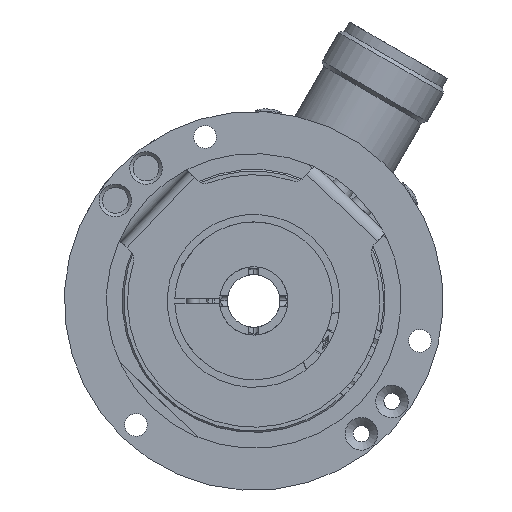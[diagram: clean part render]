
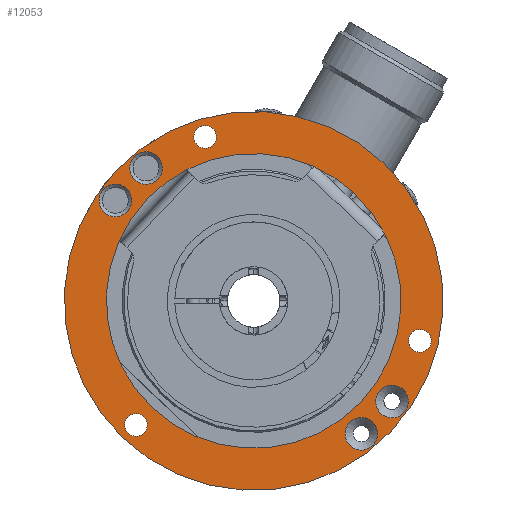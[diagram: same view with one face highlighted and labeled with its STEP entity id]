
A CAD part, left-side view. The second image highlights one B-rep face of the part: STEP entity #12053.
In plain terms, the highlighted planar face has unit normal (-1, 0, 0).
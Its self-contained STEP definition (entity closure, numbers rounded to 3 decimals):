
#1892 = FACE_BOUND ( 'NONE', #14292, .T. ) ;
#1893 = FACE_BOUND ( 'NONE', #14314, .T. ) ;
#1894 = FACE_BOUND ( 'NONE', #14316, .T. ) ;
#1895 = FACE_BOUND ( 'NONE', #14315, .T. ) ;
#1896 = FACE_BOUND ( 'NONE', #14304, .T. ) ;
#1897 = FACE_BOUND ( 'NONE', #14317, .T. ) ;
#1898 = FACE_BOUND ( 'NONE', #14318, .T. ) ;
#1899 = FACE_BOUND ( 'NONE', #14319, .T. ) ;
#1900 = FACE_OUTER_BOUND ( 'NONE', #14320, .T. ) ;
#4047 = DIRECTION ( 'NONE',  ( 1., 0., 0. ) ) ;
#4053 = CARTESIAN_POINT ( 'NONE',  ( -11.2, 0., 0. ) ) ;
#4054 = PLANE ( 'NONE',  #21136 ) ;
#4055 = DIRECTION ( 'NONE',  ( 0., -0.725, -0.688 ) ) ;
#4995 = CIRCLE ( 'NONE', #8815, 28. ) ;
#4997 = CIRCLE ( 'NONE', #8813, 2.15 ) ;
#5017 = CIRCLE ( 'NONE', #8818, 2.15 ) ;
#5019 = CIRCLE ( 'NONE', #8819, 3.1 ) ;
#5021 = CIRCLE ( 'NONE', #8821, 3.1 ) ;
#5024 = CIRCLE ( 'NONE', #8820, 2.15 ) ;
#5028 = CIRCLE ( 'NONE', #8822, 3.1 ) ;
#5029 = CIRCLE ( 'NONE', #8823, 3.1 ) ;
#5055 = CIRCLE ( 'NONE', #8831, 36. ) ;
#8813 = AXIS2_PLACEMENT_3D ( 'NONE', #9500, #9501, #9502 ) ;
#8815 = AXIS2_PLACEMENT_3D ( 'NONE', #9508, #9509, #9510 ) ;
#8818 = AXIS2_PLACEMENT_3D ( 'NONE', #9534, #9535, #9536 ) ;
#8819 = AXIS2_PLACEMENT_3D ( 'NONE', #9538, #9539, #9540 ) ;
#8820 = AXIS2_PLACEMENT_3D ( 'NONE', #9541, #9542, #9543 ) ;
#8821 = AXIS2_PLACEMENT_3D ( 'NONE', #9546, #9547, #9548 ) ;
#8822 = AXIS2_PLACEMENT_3D ( 'NONE', #9550, #9551, #9552 ) ;
#8823 = AXIS2_PLACEMENT_3D ( 'NONE', #9553, #9554, #9555 ) ;
#8831 = AXIS2_PLACEMENT_3D ( 'NONE', #9601, #9602, #9603 ) ;
#9500 = CARTESIAN_POINT ( 'NONE',  ( -11.2, 22.372, -23.575 ) ) ;
#9501 = DIRECTION ( 'NONE',  ( -1., 0., 0. ) ) ;
#9502 = DIRECTION ( 'NONE',  ( 0., 0.725, 0.688 ) ) ;
#9508 = CARTESIAN_POINT ( 'NONE',  ( -11.2, 0., 0. ) ) ;
#9509 = DIRECTION ( 'NONE',  ( 1., 0., 0. ) ) ;
#9510 = DIRECTION ( 'NONE',  ( 0., -0.725, -0.688 ) ) ;
#9534 = CARTESIAN_POINT ( 'NONE',  ( -11.2, -31.602, -7.587 ) ) ;
#9535 = DIRECTION ( 'NONE',  ( -1., 0., 0. ) ) ;
#9536 = DIRECTION ( 'NONE',  ( 0., 0.233, -0.972 ) ) ;
#9538 = CARTESIAN_POINT ( 'NONE',  ( -11.2, 20.453, 25.257 ) ) ;
#9539 = DIRECTION ( 'NONE',  ( 1., 0., 0. ) ) ;
#9540 = DIRECTION ( 'NONE',  ( 0., -0.725, -0.688 ) ) ;
#9541 = CARTESIAN_POINT ( 'NONE',  ( -11.2, 9.23, 31.162 ) ) ;
#9542 = DIRECTION ( 'NONE',  ( -1., 0., 0. ) ) ;
#9543 = DIRECTION ( 'NONE',  ( 0., -0.959, 0.284 ) ) ;
#9546 = CARTESIAN_POINT ( 'NONE',  ( -11.2, 26.293, 19.103 ) ) ;
#9547 = DIRECTION ( 'NONE',  ( 1., 0., 0. ) ) ;
#9548 = DIRECTION ( 'NONE',  ( 0., -0.725, -0.688 ) ) ;
#9550 = CARTESIAN_POINT ( 'NONE',  ( -11.2, -20.453, -25.257 ) ) ;
#9551 = DIRECTION ( 'NONE',  ( 1., 0., 0. ) ) ;
#9552 = DIRECTION ( 'NONE',  ( 0., -0.725, -0.688 ) ) ;
#9553 = CARTESIAN_POINT ( 'NONE',  ( -11.2, -26.293, -19.103 ) ) ;
#9554 = DIRECTION ( 'NONE',  ( 1., 0., 0. ) ) ;
#9555 = DIRECTION ( 'NONE',  ( 0., -0.725, -0.688 ) ) ;
#9601 = CARTESIAN_POINT ( 'NONE',  ( -11.2, 0., 0. ) ) ;
#9602 = DIRECTION ( 'NONE',  ( 1., 0., 0. ) ) ;
#9603 = DIRECTION ( 'NONE',  ( 0., -0.725, -0.688 ) ) ;
#10280 = VERTEX_POINT ( 'NONE', #10537 ) ;
#10281 = VERTEX_POINT ( 'NONE', #10538 ) ;
#10282 = VERTEX_POINT ( 'NONE', #10539 ) ;
#10283 = VERTEX_POINT ( 'NONE', #10540 ) ;
#10284 = VERTEX_POINT ( 'NONE', #10541 ) ;
#10285 = VERTEX_POINT ( 'NONE', #10542 ) ;
#10286 = VERTEX_POINT ( 'NONE', #10543 ) ;
#10287 = VERTEX_POINT ( 'NONE', #10544 ) ;
#10292 = VERTEX_POINT ( 'NONE', #10549 ) ;
#10537 = CARTESIAN_POINT ( 'NONE',  ( -11.2, 23.931, -22.095 ) ) ;
#10538 = CARTESIAN_POINT ( 'NONE',  ( -11.2, -20.31, -19.274 ) ) ;
#10539 = CARTESIAN_POINT ( 'NONE',  ( -11.2, -31.1, -9.678 ) ) ;
#10540 = CARTESIAN_POINT ( 'NONE',  ( -11.2, 18.204, 23.123 ) ) ;
#10541 = CARTESIAN_POINT ( 'NONE',  ( -11.2, 7.169, 31.772 ) ) ;
#10542 = CARTESIAN_POINT ( 'NONE',  ( -11.2, 24.044, 16.969 ) ) ;
#10543 = CARTESIAN_POINT ( 'NONE',  ( -11.2, -22.702, -27.391 ) ) ;
#10544 = CARTESIAN_POINT ( 'NONE',  ( -11.2, -28.542, -21.237 ) ) ;
#10549 = CARTESIAN_POINT ( 'NONE',  ( -11.2, -26.113, -24.781 ) ) ;
#12053 = ADVANCED_FACE ( 'NONE', ( #1892, #1896, #1893, #1895, #1894, #1897, #1898, #1899, #1900 ), #4054, .F. ) ;
#13953 = ORIENTED_EDGE ( 'NONE', *, *, #16547, .T. ) ;
#13954 = ORIENTED_EDGE ( 'NONE', *, *, #16550, .T. ) ;
#13955 = ORIENTED_EDGE ( 'NONE', *, *, #16552, .T. ) ;
#13956 = ORIENTED_EDGE ( 'NONE', *, *, #16551, .T. ) ;
#13957 = ORIENTED_EDGE ( 'NONE', *, *, #16548, .F. ) ;
#13958 = ORIENTED_EDGE ( 'NONE', *, *, #16545, .F. ) ;
#13959 = ORIENTED_EDGE ( 'NONE', *, *, #16531, .F. ) ;
#13960 = ORIENTED_EDGE ( 'NONE', *, *, #16533, .T. ) ;
#13961 = ORIENTED_EDGE ( 'NONE', *, *, #16572, .F. ) ;
#14292 = EDGE_LOOP ( 'NONE', ( #13953 ) ) ;
#14304 = EDGE_LOOP ( 'NONE', ( #13954 ) ) ;
#14314 = EDGE_LOOP ( 'NONE', ( #13955 ) ) ;
#14315 = EDGE_LOOP ( 'NONE', ( #13956 ) ) ;
#14316 = EDGE_LOOP ( 'NONE', ( #13957 ) ) ;
#14317 = EDGE_LOOP ( 'NONE', ( #13958 ) ) ;
#14318 = EDGE_LOOP ( 'NONE', ( #13959 ) ) ;
#14319 = EDGE_LOOP ( 'NONE', ( #13960 ) ) ;
#14320 = EDGE_LOOP ( 'NONE', ( #13961 ) ) ;
#16531 = EDGE_CURVE ( 'NONE', #10280, #10280, #4997, .T. ) ;
#16533 = EDGE_CURVE ( 'NONE', #10281, #10281, #4995, .T. ) ;
#16545 = EDGE_CURVE ( 'NONE', #10282, #10282, #5017, .T. ) ;
#16547 = EDGE_CURVE ( 'NONE', #10283, #10283, #5019, .T. ) ;
#16548 = EDGE_CURVE ( 'NONE', #10284, #10284, #5024, .T. ) ;
#16550 = EDGE_CURVE ( 'NONE', #10285, #10285, #5021, .T. ) ;
#16551 = EDGE_CURVE ( 'NONE', #10286, #10286, #5028, .T. ) ;
#16552 = EDGE_CURVE ( 'NONE', #10287, #10287, #5029, .T. ) ;
#16572 = EDGE_CURVE ( 'NONE', #10292, #10292, #5055, .T. ) ;
#21136 = AXIS2_PLACEMENT_3D ( 'NONE', #4053, #4047, #4055 ) ;
